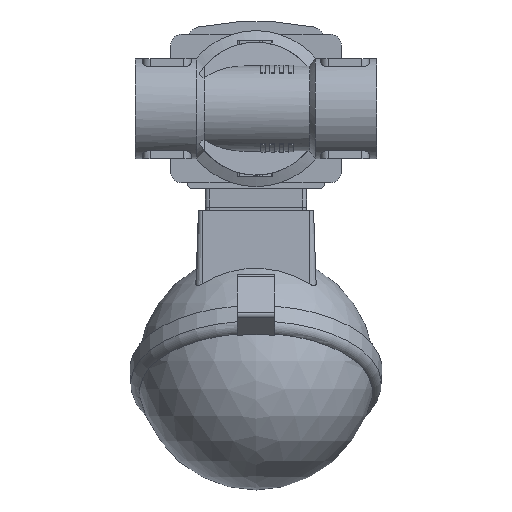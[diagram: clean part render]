
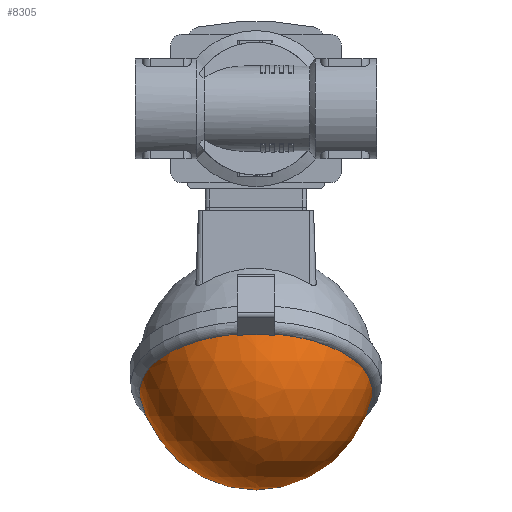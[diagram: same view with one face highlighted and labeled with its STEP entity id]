
A CAD part, front view. The second image highlights one B-rep face of the part: STEP entity #8305.
In plain terms, the highlighted spherical face has radius 32 mm.
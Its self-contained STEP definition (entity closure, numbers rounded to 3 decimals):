
#20=SPHERICAL_SURFACE('',#8958,32.);
#2728=ORIENTED_EDGE('',*,*,#4062,.F.);
#2729=ORIENTED_EDGE('',*,*,#4063,.T.);
#2730=ORIENTED_EDGE('',*,*,#4064,.T.);
#2731=ORIENTED_EDGE('',*,*,#4065,.F.);
#2732=ORIENTED_EDGE('',*,*,#4066,.F.);
#2733=ORIENTED_EDGE('',*,*,#4067,.F.);
#2734=ORIENTED_EDGE('',*,*,#4068,.T.);
#2735=ORIENTED_EDGE('',*,*,#4069,.T.);
#4062=EDGE_CURVE('',#4825,#4826,#5219,.F.);
#4063=EDGE_CURVE('',#4825,#4827,#5220,.F.);
#4064=EDGE_CURVE('',#4827,#4828,#5221,.F.);
#4065=EDGE_CURVE('',#4829,#4828,#5222,.F.);
#4066=EDGE_CURVE('',#4830,#4829,#5223,.F.);
#4067=EDGE_CURVE('',#4831,#4830,#5224,.F.);
#4068=EDGE_CURVE('',#4831,#4832,#5225,.F.);
#4069=EDGE_CURVE('',#4832,#4826,#5226,.F.);
#4825=VERTEX_POINT('',#12944);
#4826=VERTEX_POINT('',#12945);
#4827=VERTEX_POINT('',#12947);
#4828=VERTEX_POINT('',#12949);
#4829=VERTEX_POINT('',#12951);
#4830=VERTEX_POINT('',#12953);
#4831=VERTEX_POINT('',#12955);
#4832=VERTEX_POINT('',#12957);
#5219=CIRCLE('',#8959,31.368);
#5220=CIRCLE('',#8960,31.607);
#5221=CIRCLE('',#8961,31.291);
#5222=CIRCLE('',#8962,31.607);
#5223=CIRCLE('',#8963,31.368);
#5224=CIRCLE('',#8964,30.708);
#5225=CIRCLE('',#8965,30.984);
#5226=CIRCLE('',#8966,30.708);
#5616=EDGE_LOOP('',(#2728,#2729,#2730,#2731,#2732,#2733,#2734,#2735));
#6064=FACE_BOUND('',#5616,.T.);
#8305=ADVANCED_FACE('',(#6064),#20,.T.);
#8958=AXIS2_PLACEMENT_3D('',#12942,#10587,#10588);
#8959=AXIS2_PLACEMENT_3D('',#12943,#10589,#10590);
#8960=AXIS2_PLACEMENT_3D('',#12946,#10591,#10592);
#8961=AXIS2_PLACEMENT_3D('',#12948,#10593,#10594);
#8962=AXIS2_PLACEMENT_3D('',#12950,#10595,#10596);
#8963=AXIS2_PLACEMENT_3D('',#12952,#10597,#10598);
#8964=AXIS2_PLACEMENT_3D('',#12954,#10599,#10600);
#8965=AXIS2_PLACEMENT_3D('',#12956,#10601,#10602);
#8966=AXIS2_PLACEMENT_3D('',#12958,#10603,#10604);
#10587=DIRECTION('',(1.,0.,0.));
#10588=DIRECTION('',(0.,-1.,0.));
#10589=DIRECTION('',(-0.866,-0.5,0.));
#10590=DIRECTION('',(0.5,-0.866,0.));
#10591=DIRECTION('',(0.,0.,1.));
#10592=DIRECTION('',(1.,0.,0.));
#10593=DIRECTION('',(0.866,0.5,0.));
#10594=DIRECTION('',(-0.5,0.866,0.));
#10595=DIRECTION('',(0.,0.,1.));
#10596=DIRECTION('',(1.,0.,0.));
#10597=DIRECTION('',(-0.866,-0.5,0.));
#10598=DIRECTION('',(0.5,-0.866,0.));
#10599=DIRECTION('',(0.,0.,1.));
#10600=DIRECTION('',(1.,0.,0.));
#10601=DIRECTION('',(0.866,0.5,0.));
#10602=DIRECTION('',(-0.5,0.866,0.));
#10603=DIRECTION('',(0.,0.,1.));
#10604=DIRECTION('',(1.,0.,0.));
#12942=CARTESIAN_POINT('',(-70.7,0.,0.));
#12943=CARTESIAN_POINT('',(-76.183,-3.165,0.));
#12944=CARTESIAN_POINT('',(-60.699,-29.983,-5.));
#12945=CARTESIAN_POINT('',(-91.207,22.858,-9.));
#12946=CARTESIAN_POINT('',(-70.7,0.,-5.));
#12947=CARTESIAN_POINT('',(-61.058,-30.1,-5.));
#12948=CARTESIAN_POINT('',(-76.502,-3.35,0.));
#12949=CARTESIAN_POINT('',(-61.058,-30.1,5.));
#12950=CARTESIAN_POINT('',(-70.7,0.,5.));
#12951=CARTESIAN_POINT('',(-60.699,-29.983,5.));
#12952=CARTESIAN_POINT('',(-76.183,-3.165,0.));
#12953=CARTESIAN_POINT('',(-91.207,22.858,9.));
#12954=CARTESIAN_POINT('',(-70.7,0.,9.));
#12955=CARTESIAN_POINT('',(-92.452,21.676,9.));
#12956=CARTESIAN_POINT('',(-77.628,-4.,0.));
#12957=CARTESIAN_POINT('',(-92.452,21.676,-9.));
#12958=CARTESIAN_POINT('',(-70.7,0.,-9.));
